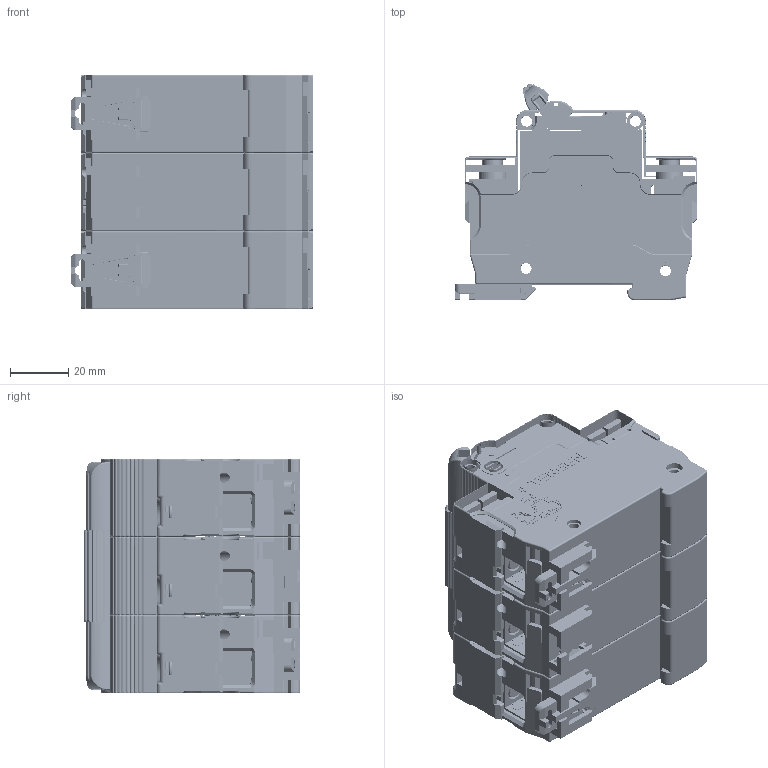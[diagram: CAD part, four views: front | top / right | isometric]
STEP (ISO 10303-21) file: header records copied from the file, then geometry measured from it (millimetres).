
FILE_DESCRIPTION((''),'2;1');
FILE_NAME('TGB1N-1253P_SW0001','2021-03-30T',('chenyong1'),(''),'PRO/ENGINEER BY PARAMETRIC TECHNOLOGY CORPORATION, 2017170','PRO/ENGINEER BY PARAMETRIC TECHNOLOGY CORPORATION, 2017170','');
FILE_SCHEMA(('CONFIG_CONTROL_DESIGN'));
Products named in the file (1): TGB1N-1253P_SW0001
Bounding box: 83.73 x 74.69 x 81 mm (x, y, z)
Volume: 225464.9 mm3; surface area: 125849.6 mm2
Topology: 4 solids, 6 shells, 9036 faces, 25698 edges, 16657 vertices
Faces by surface type: plane 6578, cylinder 1486, bspline 282, torus 238, cone 218, extrusion 214, sphere 20
Entity records: 309649 total; most frequent: CARTESIAN_POINT 78136, ORIENTED_EDGE 51212, DIRECTION 43735, EDGE_CURVE 25606, VECTOR 19477, LINE 19263, VERTEX_POINT 16657, AXIS2_PLACEMENT_3D 12129
